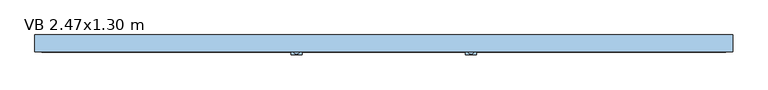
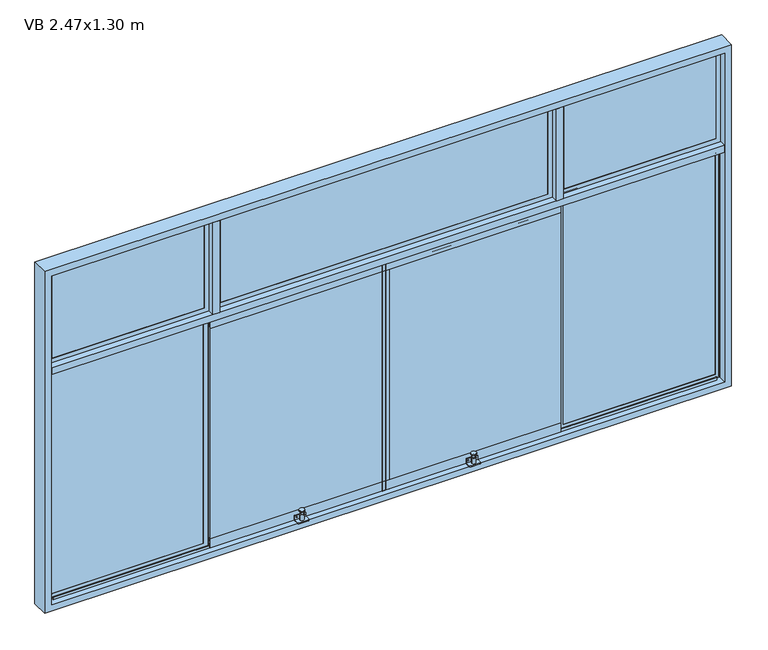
"""IFC4 building model written with IfcOpenShell, lengths in millimetres: window geometry, Ventana baja corrediza 4 cuerpos : VB 2.47x1.30 m."""

from ifc_helpers import new_model, si_unit, point, frame, frame_2d, origin, place, context, project, spatial, polyline, circle_curve, trimmed, segment, composite_curve, outline, extrude, faceted_brep, source, transform, mapped, element, save


def vb_2_47x1_30_m_5969127e(model_context):
    return source(origin(), model_context, "Body", "SolidModel", [
        extrude(outline(composite_curve([segment(trimmed(circle_curve(frame_2d((308.75, -28.2738075)), 9.1519646), [point((317.9019646, -28.2738075))], [point((299.5980354, -28.2738075))], False, "CARTESIAN"), True, "CONTINUOUS"), segment(trimmed(circle_curve(frame_2d((308.75, -28.2738075)), 9.1519646), [point((299.5980354, -28.2738075))], [point((317.9019646, -28.2738075))], False, "CARTESIAN"), True, "CONTINUOUS")], self_intersect=False)), frame((0.0, 0.0, 966.1518437), z_axis=(0.0, 0.0, 1.0), x_axis=(1.0, 0.0, 0.0)), (0.0, 0.0, 1.0), 3.4852564),
        extrude(outline(composite_curve([segment(trimmed(circle_curve(frame_2d((308.75, -28.2738075)), 4.1308937), [point((312.8808937, -28.2738075))], [point((304.6191063, -28.2738075))], False, "CARTESIAN"), True, "CONTINUOUS"), segment(trimmed(circle_curve(frame_2d((308.75, -28.2738075)), 4.1308937), [point((304.6191063, -28.2738075))], [point((312.8808937, -28.2738075))], False, "CARTESIAN"), True, "CONTINUOUS")], self_intersect=False)), frame((0.0, 0.0, 953.913316), z_axis=(0.0, 0.0, 1.0), x_axis=(1.0, 0.0, 0.0)), (0.0, 0.0, 1.0), 12.2385277),
        extrude(outline(composite_curve([segment(trimmed(circle_curve(frame_2d((308.75, -28.2738075)), 7.026694), [point((315.776694, -28.2738075))], [point((301.723306, -28.2738075))], False, "CARTESIAN"), True, "CONTINUOUS"), segment(trimmed(circle_curve(frame_2d((308.75, -28.2738075)), 7.026694), [point((301.723306, -28.2738075))], [point((315.776694, -28.2738075))], False, "CARTESIAN"), True, "CONTINUOUS")], self_intersect=False)), frame((0.0, 0.0, 932.1776083), z_axis=(0.0, 0.0, 1.0), x_axis=(1.0, 0.0, 0.0)), (0.0, 0.0, 1.0), 21.7357077),
        extrude(outline(composite_curve([segment(trimmed(circle_curve(frame_2d((945.1933283, 326.76572)), 1.98428), [point((945.1933283, 328.75))], [point((947.1776083, 326.76572))], False, "CARTESIAN"), True, "CONTINUOUS"), segment(polyline([(947.1776083, 326.76572), (947.1776083, 290.73428)]), True, "CONTINUOUS"), segment(trimmed(circle_curve(frame_2d((945.1933283, 290.73428)), 1.98428), [point((947.1776083, 290.73428))], [point((945.1933283, 288.75))], False, "CARTESIAN"), True, "CONTINUOUS"), segment(polyline([(945.1933283, 288.75), (932.1776083, 288.75), (932.1776083, 328.75), (945.1933283, 328.75)]), True, "CONTINUOUS")], self_intersect=False), holes=[composite_curve([segment(trimmed(circle_curve(frame_2d((940.5771467, 322.0853779)), 1.6750611), [point((940.5771467, 323.7604391))], [point((940.5771467, 320.4103168))], True, "CARTESIAN"), True, "CONTINUOUS"), segment(trimmed(circle_curve(frame_2d((940.5771467, 322.0853779)), 1.6750611), [point((940.5771467, 320.4103168))], [point((940.5771467, 323.7604391))], True, "CARTESIAN"), True, "CONTINUOUS")], self_intersect=False), composite_curve([segment(trimmed(circle_curve(frame_2d((940.5771467, 295.4146221)), 1.6750611), [point((940.5771467, 293.7395609))], [point((940.5771467, 297.0896832))], True, "CARTESIAN"), True, "CONTINUOUS"), segment(trimmed(circle_curve(frame_2d((940.5771467, 295.4146221)), 1.6750611), [point((940.5771467, 297.0896832))], [point((940.5771467, 293.7395609))], True, "CARTESIAN"), True, "CONTINUOUS")], self_intersect=False)]), frame((0.0, -19.1218429, 0.0), z_axis=(0.0, 1.0, 0.0), x_axis=(0.0, 0.0, 1.0)), (0.0, 0.0, 1.0), 4.012039),
        extrude(outline(composite_curve([segment(polyline([(288.75, -15.1098039), (328.75, -15.1098039), (328.75, -36.2721359)]), True, "CONTINUOUS"), segment(trimmed(circle_curve(frame_2d((324.9123319, -36.2721359)), 3.8376681), [point((328.75, -36.2721359))], [point((324.9123319, -40.1098039))], False, "CARTESIAN"), True, "CONTINUOUS"), segment(polyline([(324.9123319, -40.1098039), (292.5876681, -40.1098039)]), True, "CONTINUOUS"), segment(trimmed(circle_curve(frame_2d((292.5876681, -36.2721359)), 3.8376681), [point((292.5876681, -40.1098039))], [point((288.75, -36.2721359))], False, "CARTESIAN"), True, "CONTINUOUS"), segment(polyline([(288.75, -36.2721359), (288.75, -15.1098039)]), True, "CONTINUOUS")], self_intersect=False)), frame((0.0, 0.0, 928.6104688), z_axis=(0.0, 0.0, 1.0), x_axis=(1.0, 0.0, 0.0)), (0.0, 0.0, 1.0), 3.5671395),
        extrude(outline(composite_curve([segment(trimmed(circle_curve(frame_2d((-308.75, -28.2738075)), 9.1519646), [point((-299.5980354, -28.2738075))], [point((-317.9019646, -28.2738075))], False, "CARTESIAN"), True, "CONTINUOUS"), segment(trimmed(circle_curve(frame_2d((-308.75, -28.2738075)), 9.1519646), [point((-317.9019646, -28.2738075))], [point((-299.5980354, -28.2738075))], False, "CARTESIAN"), True, "CONTINUOUS")], self_intersect=False)), frame((0.0, 0.0, 966.1518437), z_axis=(0.0, 0.0, 1.0), x_axis=(1.0, 0.0, 0.0)), (0.0, 0.0, 1.0), 3.4852564),
        extrude(outline(composite_curve([segment(trimmed(circle_curve(frame_2d((-308.75, -28.2738075)), 4.1308937), [point((-304.6191063, -28.2738075))], [point((-312.8808937, -28.2738075))], False, "CARTESIAN"), True, "CONTINUOUS"), segment(trimmed(circle_curve(frame_2d((-308.75, -28.2738075)), 4.1308937), [point((-312.8808937, -28.2738075))], [point((-304.6191063, -28.2738075))], False, "CARTESIAN"), True, "CONTINUOUS")], self_intersect=False)), frame((0.0, 0.0, 953.913316), z_axis=(0.0, 0.0, 1.0), x_axis=(1.0, 0.0, 0.0)), (0.0, 0.0, 1.0), 12.2385277),
        extrude(outline(composite_curve([segment(trimmed(circle_curve(frame_2d((-308.75, -28.2738075)), 7.026694), [point((-301.723306, -28.2738075))], [point((-315.776694, -28.2738075))], False, "CARTESIAN"), True, "CONTINUOUS"), segment(trimmed(circle_curve(frame_2d((-308.75, -28.2738075)), 7.026694), [point((-315.776694, -28.2738075))], [point((-301.723306, -28.2738075))], False, "CARTESIAN"), True, "CONTINUOUS")], self_intersect=False)), frame((0.0, 0.0, 932.1776083), z_axis=(0.0, 0.0, 1.0), x_axis=(1.0, 0.0, 0.0)), (0.0, 0.0, 1.0), 21.7357077),
        extrude(outline(composite_curve([segment(trimmed(circle_curve(frame_2d((945.1933283, -290.73428)), 1.98428), [point((945.1933283, -288.75))], [point((947.1776083, -290.73428))], False, "CARTESIAN"), True, "CONTINUOUS"), segment(polyline([(947.1776083, -290.73428), (947.1776083, -326.76572)]), True, "CONTINUOUS"), segment(trimmed(circle_curve(frame_2d((945.1933283, -326.76572)), 1.98428), [point((947.1776083, -326.76572))], [point((945.1933283, -328.75))], False, "CARTESIAN"), True, "CONTINUOUS"), segment(polyline([(945.1933283, -328.75), (932.1776083, -328.75), (932.1776083, -288.75), (945.1933283, -288.75)]), True, "CONTINUOUS")], self_intersect=False), holes=[composite_curve([segment(trimmed(circle_curve(frame_2d((940.5771467, -295.4146221)), 1.6750611), [point((940.5771467, -293.7395609))], [point((940.5771467, -297.0896832))], True, "CARTESIAN"), True, "CONTINUOUS"), segment(trimmed(circle_curve(frame_2d((940.5771467, -295.4146221)), 1.6750611), [point((940.5771467, -297.0896832))], [point((940.5771467, -293.7395609))], True, "CARTESIAN"), True, "CONTINUOUS")], self_intersect=False), composite_curve([segment(trimmed(circle_curve(frame_2d((940.5771467, -322.0853779)), 1.6750611), [point((940.5771467, -323.7604391))], [point((940.5771467, -320.4103168))], True, "CARTESIAN"), True, "CONTINUOUS"), segment(trimmed(circle_curve(frame_2d((940.5771467, -322.0853779)), 1.6750611), [point((940.5771467, -320.4103168))], [point((940.5771467, -323.7604391))], True, "CARTESIAN"), True, "CONTINUOUS")], self_intersect=False)]), frame((0.0, -19.1218429, 0.0), z_axis=(0.0, 1.0, 0.0), x_axis=(0.0, 0.0, 1.0)), (0.0, 0.0, 1.0), 4.012039),
        extrude(outline(composite_curve([segment(polyline([(-328.75, -15.1098039), (-288.75, -15.1098039), (-288.75, -36.2721359)]), True, "CONTINUOUS"), segment(trimmed(circle_curve(frame_2d((-292.5876681, -36.2721359)), 3.8376681), [point((-288.75, -36.2721359))], [point((-292.5876681, -40.1098039))], False, "CARTESIAN"), True, "CONTINUOUS"), segment(polyline([(-292.5876681, -40.1098039), (-324.9123319, -40.1098039)]), True, "CONTINUOUS"), segment(trimmed(circle_curve(frame_2d((-324.9123319, -36.2721359)), 3.8376681), [point((-324.9123319, -40.1098039))], [point((-328.75, -36.2721359))], False, "CARTESIAN"), True, "CONTINUOUS"), segment(polyline([(-328.75, -36.2721359), (-328.75, -15.1098039)]), True, "CONTINUOUS")], self_intersect=False)), frame((0.0, 0.0, 928.6104688), z_axis=(0.0, 0.0, 1.0), x_axis=(1.0, 0.0, 0.0)), (0.0, 0.0, 1.0), 3.5671395),
        extrude(outline(polyline([(-605.0, -30.15), (-630.0, -30.15), (-630.0, 30.15), (-605.0, 30.15), (-605.0, -30.15)])), frame((0.0, 0.0, 1825.0), z_axis=(0.0, 0.0, 1.0), x_axis=(1.0, 0.0, 0.0)), (0.0, 0.0, 1.0), 350.0),
        extrude(outline(polyline([(12.7, -13.9001865), (12.7, -4.4001865), (630.0, -4.4001865), (630.0, -13.9001865), (12.7, -13.9001865)])), frame((0.0, 0.0, 948.9759668), z_axis=(0.0, 0.0, 1.0), x_axis=(1.0, 0.0, 0.0)), (0.0, 0.0, 1.0), 827.0480665),
        extrude(outline(polyline([(-633.59375, 1.2096174), (-1206.40625, 1.2096174), (-1206.40625, 10.7096174), (-633.59375, 10.7096174), (-633.59375, 1.2096174)])), frame((0.0, 0.0, 928.59375), z_axis=(0.0, 0.0, 1.0), x_axis=(1.0, 0.0, 0.0)), (0.0, 0.0, 1.0), 867.8125),
        extrude(outline(polyline([(1206.40625, 1.2096174), (633.59375, 1.2096174), (633.59375, 10.7096174), (1206.40625, 10.7096174), (1206.40625, 1.2096174)])), frame((0.0, 0.0, 928.59375), z_axis=(0.0, 0.0, 1.0), x_axis=(1.0, 0.0, 0.0)), (0.0, 0.0, 1.0), 867.8125),
        extrude(outline(polyline([(-633.59375, -4.75), (-1206.40625, -4.75), (-1206.40625, 4.75), (-633.59375, 4.75), (-633.59375, -4.75)])), frame((0.0, 0.0, 1828.59375), z_axis=(0.0, 0.0, 1.0), x_axis=(1.0, 0.0, 0.0)), (0.0, 0.0, 1.0), 342.8125),
        extrude(outline(polyline([(1206.40625, -4.75), (633.59375, -4.75), (633.59375, 4.75), (1206.40625, 4.75), (1206.40625, -4.75)])), frame((0.0, 0.0, 1828.59375), z_axis=(0.0, 0.0, 1.0), x_axis=(1.0, 0.0, 0.0)), (0.0, 0.0, 1.0), 342.8125),
        extrude(outline(composite_curve([segment(polyline([(-10.2821926, 1800.0), (0.0, 1800.0), (0.0, 1797.9830324), (-8.0182357, 1797.9830324), (-8.0182357, 1789.1628008)]), True, "CONTINUOUS"), segment(trimmed(circle_curve(frame_2d((-9.1502142, 1789.8593269)), 1.3291064), [point((-8.0182357, 1789.1628008))], [point((-10.2821926, 1789.1628008))], False, "CARTESIAN"), True, "CONTINUOUS"), segment(polyline([(-10.2821926, 1789.1628008), (-10.2821926, 1800.0)]), True, "CONTINUOUS")], self_intersect=False)), frame((-1193.2282521, 0.0, 0.0), z_axis=(1.0, 0.0, 0.0), x_axis=(0.0, 1.0, 0.0)), (0.0, 0.0, 1.0), 2386.4565041),
        extrude(outline(polyline([(-12.0251865, 1779.6177832), (-6.2751865, 1779.6177832), (-6.2751865, 1796.3895312), (-3.190569, 1796.3895312), (-3.190569, 1762.8460353), (-4.4001865, 1762.8460353), (-4.4001865, 1776.0240332), (-13.9001865, 1776.0240332), (-13.9001865, 1762.8460353), (-15.1098039, 1762.8460353), (-15.1098039, 1796.3895312), (-12.0251865, 1796.3895312), (-12.0251865, 1779.6177832)])), frame((-630.0, 0.0, 0.0), z_axis=(1.0, 0.0, 0.0), x_axis=(0.0, 1.0, 0.0)), (0.0, 0.0, 1.0), 1260.0),
        extrude(outline(polyline([(-6.9867702, 1780.2900719), (-9.1501865, 1782.4534882), (-11.3136028, 1780.2900719), (-11.3136028, 1789.8233667), (-9.1501865, 1787.6599504), (-6.9867702, 1789.8233667), (-6.9867702, 1780.2900719)])), frame((-630.0, 0.0, 0.0), z_axis=(1.0, 0.0, 0.0), x_axis=(0.0, 1.0, 0.0)), (0.0, 0.0, 1.0), 1260.0),
        faceted_brep([(-646.7717479, 0.0, 1783.2282521), (-646.7717479, 1.2096174, 1783.2282521), (-646.7717479, 1.2096174, 941.7717479), (-646.7717479, 0.0, 941.7717479), (-633.59375, 1.2096174, 1796.40625), (-633.59375, 10.7096174, 1796.40625), (-633.59375, 10.7096174, 928.59375), (-633.59375, 1.2096174, 928.59375), (-646.7717479, 10.7096174, 1783.2282521), (-646.7717479, 11.9192349, 1783.2282521), (-646.7717479, 11.9192349, 941.7717479), (-646.7717479, 10.7096174, 941.7717479), (-630.0, 11.9192349, 1800.0), (-630.0, 0.0, 1800.0), (-630.0, 0.0, 925.0), (-630.0, 11.9192349, 925.0), (-1193.2282521, 1.2096174, 941.7717479), (-1193.2282521, 0.0, 941.7717479), (-1206.40625, 10.7096174, 928.59375), (-1206.40625, 1.2096174, 928.59375), (-1193.2282521, 11.9192349, 941.7717479), (-1193.2282521, 10.7096174, 941.7717479), (-1210.0, 0.0, 925.0), (-1210.0, 11.9192349, 925.0), (-1193.2282521, 1.2096174, 1783.2282521), (-1193.2282521, 0.0, 1783.2282521), (-1206.40625, 10.7096174, 1796.40625), (-1206.40625, 1.2096174, 1796.40625), (-1193.2282521, 11.9192349, 1783.2282521), (-1193.2282521, 10.7096174, 1783.2282521), (-1210.0, 0.0, 1800.0), (-1210.0, 11.9192349, 1800.0)], [[[0, 1, 2, 3]], [[4, 5, 6, 7]], [[8, 9, 10, 11]], [[12, 13, 14, 15]], [[3, 2, 16, 17]], [[7, 6, 18, 19]], [[11, 10, 20, 21]], [[15, 14, 22, 23]], [[17, 16, 24, 25]], [[19, 18, 26, 27]], [[21, 20, 28, 29]], [[23, 22, 30, 31]], [[13, 30, 22, 14], [3, 17, 25, 0]], [[25, 24, 1, 0]], [[7, 19, 27, 4], [1, 24, 16, 2]], [[27, 26, 5, 4]], [[5, 26, 18, 6], [11, 21, 29, 8]], [[29, 28, 9, 8]], [[15, 23, 31, 12], [9, 28, 20, 10]], [[31, 30, 13, 12]]]),
        faceted_brep([(646.7717479, 1.2096174, 1783.2282521), (646.7717479, 0.0, 1783.2282521), (646.7717479, 0.0, 941.7717479), (646.7717479, 1.2096174, 941.7717479), (633.59375, 10.7096174, 1796.40625), (633.59375, 1.2096174, 1796.40625), (633.59375, 1.2096174, 928.59375), (633.59375, 10.7096174, 928.59375), (646.7717479, 11.9192349, 1783.2282521), (646.7717479, 10.7096174, 1783.2282521), (646.7717479, 10.7096174, 941.7717479), (646.7717479, 11.9192349, 941.7717479), (630.0, 0.0, 1800.0), (630.0, 11.9192349, 1800.0), (630.0, 11.9192349, 925.0), (630.0, 0.0, 925.0), (1193.2282521, 0.0, 941.7717479), (1193.2282521, 1.2096174, 941.7717479), (1206.40625, 1.2096174, 928.59375), (1206.40625, 10.7096174, 928.59375), (1193.2282521, 10.7096174, 941.7717479), (1193.2282521, 11.9192349, 941.7717479), (1210.0, 11.9192349, 925.0), (1210.0, 0.0, 925.0), (1193.2282521, 0.0, 1783.2282521), (1193.2282521, 1.2096174, 1783.2282521), (1206.40625, 1.2096174, 1796.40625), (1206.40625, 10.7096174, 1796.40625), (1193.2282521, 10.7096174, 1783.2282521), (1193.2282521, 11.9192349, 1783.2282521), (1210.0, 11.9192349, 1800.0), (1210.0, 0.0, 1800.0)], [[[0, 1, 2, 3]], [[4, 5, 6, 7]], [[8, 9, 10, 11]], [[12, 13, 14, 15]], [[3, 2, 16, 17]], [[7, 6, 18, 19]], [[11, 10, 20, 21]], [[15, 14, 22, 23]], [[17, 16, 24, 25]], [[19, 18, 26, 27]], [[21, 20, 28, 29]], [[23, 22, 30, 31]], [[15, 23, 31, 12], [1, 24, 16, 2]], [[25, 24, 1, 0]], [[5, 26, 18, 6], [3, 17, 25, 0]], [[27, 26, 5, 4]], [[7, 19, 27, 4], [9, 28, 20, 10]], [[29, 28, 9, 8]], [[13, 30, 22, 14], [11, 21, 29, 8]], [[31, 30, 13, 12]]]),
        faceted_brep([(-1210.0, -5.9596174, 2175.0), (-1210.0, 5.9596174, 2175.0), (-1210.0, 5.9596174, 1825.0), (-1210.0, -5.9596174, 1825.0), (-1193.2282521, -4.75, 2158.2282521), (-1193.2282521, -5.9596174, 2158.2282521), (-1193.2282521, -5.9596174, 1841.7717479), (-1193.2282521, -4.75, 1841.7717479), (-1206.40625, 4.75, 2171.40625), (-1206.40625, -4.75, 2171.40625), (-1206.40625, -4.75, 1828.59375), (-1206.40625, 4.75, 1828.59375), (-1193.2282521, 5.9596174, 2158.2282521), (-1193.2282521, 4.75, 2158.2282521), (-1193.2282521, 4.75, 1841.7717479), (-1193.2282521, 5.9596174, 1841.7717479), (-630.0, 5.9596174, 1825.0), (-630.0, -5.9596174, 1825.0), (-646.7717479, -5.9596174, 1841.7717479), (-646.7717479, -4.75, 1841.7717479), (-633.59375, -4.75, 1828.59375), (-633.59375, 4.75, 1828.59375), (-646.7717479, 4.75, 1841.7717479), (-646.7717479, 5.9596174, 1841.7717479), (-630.0, 5.9596174, 2175.0), (-630.0, -5.9596174, 2175.0), (-646.7717479, -5.9596174, 2158.2282521), (-646.7717479, -4.75, 2158.2282521), (-633.59375, -4.75, 2171.40625), (-633.59375, 4.75, 2171.40625), (-646.7717479, 4.75, 2158.2282521), (-646.7717479, 5.9596174, 2158.2282521)], [[[0, 1, 2, 3]], [[4, 5, 6, 7]], [[8, 9, 10, 11]], [[12, 13, 14, 15]], [[3, 2, 16, 17]], [[7, 6, 18, 19]], [[11, 10, 20, 21]], [[15, 14, 22, 23]], [[17, 16, 24, 25]], [[19, 18, 26, 27]], [[21, 20, 28, 29]], [[23, 22, 30, 31]], [[25, 24, 1, 0]], [[3, 17, 25, 0], [5, 26, 18, 6]], [[27, 26, 5, 4]], [[9, 28, 20, 10], [7, 19, 27, 4]], [[29, 28, 9, 8]], [[11, 21, 29, 8], [13, 30, 22, 14]], [[31, 30, 13, 12]], [[1, 24, 16, 2], [15, 23, 31, 12]]]),
        faceted_brep([(633.59375, 4.75, 2171.40625), (633.59375, -4.75, 2171.40625), (633.59375, -4.75, 1828.59375), (633.59375, 4.75, 1828.59375), (646.7717479, 5.9596174, 2158.2282521), (646.7717479, 4.75, 2158.2282521), (646.7717479, 4.75, 1841.7717479), (646.7717479, 5.9596174, 1841.7717479), (630.0, -5.9596174, 2175.0), (630.0, 5.9596174, 2175.0), (630.0, 5.9596174, 1825.0), (630.0, -5.9596174, 1825.0), (646.7717479, -4.75, 2158.2282521), (646.7717479, -5.9596174, 2158.2282521), (646.7717479, -5.9596174, 1841.7717479), (646.7717479, -4.75, 1841.7717479), (1206.40625, -4.75, 1828.59375), (1206.40625, 4.75, 1828.59375), (1193.2282521, 4.75, 1841.7717479), (1193.2282521, 5.9596174, 1841.7717479), (1210.0, 5.9596174, 1825.0), (1210.0, -5.9596174, 1825.0), (1193.2282521, -5.9596174, 1841.7717479), (1193.2282521, -4.75, 1841.7717479), (1206.40625, -4.75, 2171.40625), (1206.40625, 4.75, 2171.40625), (1193.2282521, 4.75, 2158.2282521), (1193.2282521, 5.9596174, 2158.2282521), (1210.0, 5.9596174, 2175.0), (1210.0, -5.9596174, 2175.0), (1193.2282521, -5.9596174, 2158.2282521), (1193.2282521, -4.75, 2158.2282521)], [[[0, 1, 2, 3]], [[4, 5, 6, 7]], [[8, 9, 10, 11]], [[12, 13, 14, 15]], [[3, 2, 16, 17]], [[7, 6, 18, 19]], [[11, 10, 20, 21]], [[15, 14, 22, 23]], [[17, 16, 24, 25]], [[19, 18, 26, 27]], [[21, 20, 28, 29]], [[23, 22, 30, 31]], [[25, 24, 1, 0]], [[3, 17, 25, 0], [5, 26, 18, 6]], [[27, 26, 5, 4]], [[9, 28, 20, 10], [7, 19, 27, 4]], [[29, 28, 9, 8]], [[11, 21, 29, 8], [13, 30, 22, 14]], [[31, 30, 13, 12]], [[1, 24, 16, 2], [15, 23, 31, 12]]]),
        extrude(outline(polyline([(630.0, -30.15), (605.0, -30.15), (605.0, 30.15), (630.0, 30.15), (630.0, -30.15)])), frame((0.0, 0.0, 1825.0), z_axis=(0.0, 0.0, 1.0), x_axis=(1.0, 0.0, 0.0)), (0.0, 0.0, 1.0), 350.0),
        extrude(outline(polyline([(-605.0, 0.0), (-630.0, 0.0), (-630.0, 30.15), (-605.0, 30.15), (-605.0, 0.0)])), frame((0.0, 0.0, 925.0), z_axis=(0.0, 0.0, 1.0), x_axis=(1.0, 0.0, 0.0)), (0.0, 0.0, 1.0), 875.0),
        extrude(outline(polyline([(630.0, 0.0), (605.0, 0.0), (605.0, 30.15), (630.0, 30.15), (630.0, 0.0)])), frame((0.0, 0.0, 925.0), z_axis=(0.0, 0.0, 1.0), x_axis=(1.0, 0.0, 0.0)), (0.0, 0.0, 1.0), 875.0),
        extrude(outline(polyline([(1210.0, 30.15), (1210.0, -30.15), (-1210.0, -30.15), (-1210.0, 30.15), (1210.0, 30.15)])), frame((0.0, 0.0, 1800.0), z_axis=(0.0, 0.0, 1.0), x_axis=(1.0, 0.0, 0.0)), (0.0, 0.0, 1.0), 25.0),
        extrude(outline(polyline([(900.0, -1235.0), (900.0, 1235.0), (2200.0, 1235.0), (2200.0, -1235.0), (900.0, -1235.0)]), holes=[polyline([(2175.0, -1210.0), (2175.0, 1210.0), (925.0, 1210.0), (925.0, -1210.0), (2175.0, -1210.0)])]), frame((0.0, -30.15, 0.0), z_axis=(0.0, 1.0, 0.0), x_axis=(0.0, 0.0, 1.0)), (0.0, 0.0, 1.0), 60.3),
        extrude(outline(polyline([(-3.190569, 962.1539647), (-3.190569, 928.6104688), (-6.2751865, 928.6104688), (-6.2751865, 945.3822168), (-12.0251865, 945.3822168), (-12.0251865, 928.6104688), (-15.1098039, 928.6104688), (-15.1098039, 962.1539647), (-13.9001865, 962.1539647), (-13.9001865, 948.9759668), (-4.4001865, 948.9759668), (-4.4001865, 962.1539647), (-3.190569, 962.1539647)])), frame((-630.0, 0.0, 0.0), z_axis=(1.0, 0.0, 0.0), x_axis=(0.0, 1.0, 0.0)), (0.0, 0.0, 1.0), 1260.0),
        extrude(outline(polyline([(-9.1501865, 942.5465118), (-6.9867702, 944.7099281), (-6.9867702, 935.1766333), (-9.1501865, 937.3400496), (-11.3136028, 935.1766333), (-11.3136028, 944.7099281), (-9.1501865, 942.5465118)])), frame((-630.0, 0.0, 0.0), z_axis=(1.0, 0.0, 0.0), x_axis=(0.0, 1.0, 0.0)), (0.0, 0.0, 1.0), 1260.0),
        extrude(outline(polyline([(601.40625, -4.75), (-601.40625, -4.75), (-601.40625, 4.75), (601.40625, 4.75), (601.40625, -4.75)])), frame((0.0, 0.0, 1828.59375), z_axis=(0.0, 0.0, 1.0), x_axis=(1.0, 0.0, 0.0)), (0.0, 0.0, 1.0), 342.8125),
        faceted_brep([(605.0, -5.9596174, 2175.0), (605.0, 5.9596174, 2175.0), (-605.0, 5.9596174, 2175.0), (-605.0, -5.9596174, 2175.0), (-605.0, 5.9596174, 1825.0), (-605.0, -5.9596174, 1825.0), (605.0, 5.9596174, 1825.0), (-588.2282521, 5.9596174, 1841.7717479), (588.2282521, 5.9596174, 1841.7717479), (588.2282521, 5.9596174, 2158.2282521), (-588.2282521, 5.9596174, 2158.2282521), (605.0, -5.9596174, 1825.0), (-588.2282521, -5.9596174, 2158.2282521), (588.2282521, -5.9596174, 2158.2282521), (588.2282521, -5.9596174, 1841.7717479), (-588.2282521, -5.9596174, 1841.7717479), (588.2282521, -4.75, 2158.2282521), (-588.2282521, -4.75, 2158.2282521), (-588.2282521, -4.75, 1841.7717479), (-601.40625, -4.75, 2171.40625), (601.40625, -4.75, 2171.40625), (601.40625, -4.75, 1828.59375), (-601.40625, -4.75, 1828.59375), (588.2282521, -4.75, 1841.7717479), (601.40625, 4.75, 2171.40625), (-601.40625, 4.75, 2171.40625), (-601.40625, 4.75, 1828.59375), (601.40625, 4.75, 1828.59375), (-588.2282521, 4.75, 2158.2282521), (588.2282521, 4.75, 2158.2282521), (588.2282521, 4.75, 1841.7717479), (-588.2282521, 4.75, 1841.7717479)], [[[0, 1, 2, 3]], [[3, 2, 4, 5]], [[2, 1, 6, 4], [7, 8, 9, 10]], [[5, 11, 0, 3], [12, 13, 14, 15]], [[16, 13, 12, 17]], [[17, 12, 15, 18]], [[19, 20, 21, 22], [18, 23, 16, 17]], [[24, 20, 19, 25]], [[25, 19, 22, 26]], [[26, 27, 24, 25], [28, 29, 30, 31]], [[9, 29, 28, 10]], [[10, 28, 31, 7]], [[11, 6, 1, 0]], [[23, 14, 13, 16]], [[27, 21, 20, 24]], [[8, 30, 29, 9]], [[5, 4, 6, 11]], [[18, 15, 14, 23]], [[26, 22, 21, 27]], [[7, 31, 30, 8]]]),
        extrude(outline(composite_curve([segment(polyline([(-10.2821926, 925.0), (-10.2821926, 935.8371992)]), True, "CONTINUOUS"), segment(trimmed(circle_curve(frame_2d((-9.1502142, 935.1406731)), 1.3291064), [point((-10.2821926, 935.8371992))], [point((-8.0182357, 935.8371992))], False, "CARTESIAN"), True, "CONTINUOUS"), segment(polyline([(-8.0182357, 935.8371992), (-8.0182357, 927.0169676), (0.0, 927.0169676), (0.0, 925.0), (-10.2821926, 925.0)]), True, "CONTINUOUS")], self_intersect=False)), frame((-1193.2282521, 0.0, 0.0), z_axis=(1.0, 0.0, 0.0), x_axis=(0.0, 1.0, 0.0)), (0.0, 0.0, 1.0), 2386.4565041),
        extrude(outline(polyline([(-12.7, -13.9001865), (-630.0, -13.9001865), (-630.0, -4.4001865), (-12.7, -4.4001865), (-12.7, -13.9001865)])), frame((0.0, 0.0, 948.9759668), z_axis=(0.0, 0.0, 1.0), x_axis=(1.0, 0.0, 0.0)), (0.0, 0.0, 1.0), 827.0480665),
        extrude(outline(polyline([(0.0, -15.3810154), (-12.7, -15.3810154), (-12.7, -2.8879527), (0.0, -2.8879527), (0.0, -15.3810154)])), frame((0.0, 0.0, 928.6104688), z_axis=(0.0, 0.0, 1.0), x_axis=(1.0, 0.0, 0.0)), (0.0, 0.0, 1.0), 867.7790623),
        extrude(outline(polyline([(12.7, -15.3810154), (0.0, -15.3810154), (0.0, -2.8879527), (12.7, -2.8879527), (12.7, -15.3810154)])), frame((0.0, 0.0, 928.6104688), z_axis=(0.0, 0.0, 1.0), x_axis=(1.0, 0.0, 0.0)), (0.0, 0.0, 1.0), 867.7790623),
    ])


if __name__ == "__main__":
    model = new_model("IFC4")
    model_context = context("Model", 3, world=origin())
    ifc_project = project(units=[si_unit("LENGTHUNIT", "METRE", prefix="MILLI")], contexts=[model_context])
    site = spatial("IfcSite", under=ifc_project)
    building = spatial("IfcBuilding", under=site)
    placement = place(None, origin())
    vb_2_47x1_30_m_shape = vb_2_47x1_30_m_5969127e(model_context)
    element("IfcWindow", 1, ObjectType="Ventana baja corrediza 4 cuerpos : VB 2.47x1.30 m", at=placement, inside=building, context=model_context, shape_type="MappedRepresentation", body=[
        mapped(vb_2_47x1_30_m_shape, transform((0.0, 0.0, 0.0), x_axis=(1.0, 0.0, 0.0), y_axis=(0.0, 1.0, 0.0), z_axis=(0.0, 0.0, 1.0))),
    ])
    save(model, "model.ifc")
